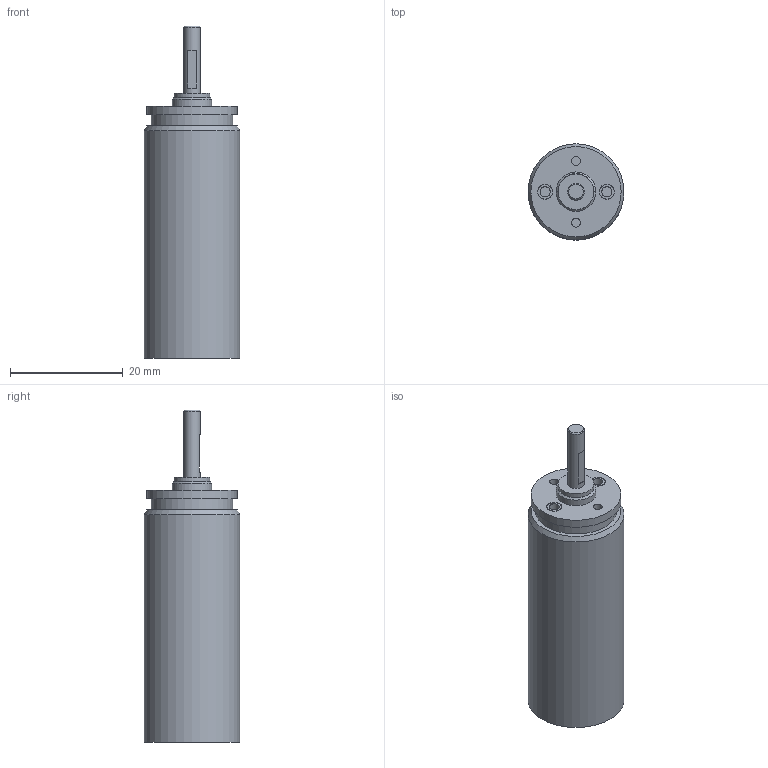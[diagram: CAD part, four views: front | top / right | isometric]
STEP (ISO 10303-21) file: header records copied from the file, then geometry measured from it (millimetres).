
FILE_DESCRIPTION(/* description */ (''),/* implementation_level */ '2;1');
FILE_NAME(/* name */ '16-5_10.stp',/* time_stamp */ '2016-08-25T11:45:32+02:00',/* author */ ('DR. FRITZ FAULHABER GmbH & Co. KG'),/* organization */ ('DR. FRITZ FAULHABER GmbH & Co. KG'),/* preprocessor_version */ 'ST-DEVELOPER v16',/* originating_system */ 'SIEMENS PLM Software NX 10.0',/* authorisation */ '');
FILE_SCHEMA (('AUTOMOTIVE_DESIGN { 1 0 10303 214 3 1 1 1 }'));
Length unit declared in the file: millimetre
Products named in the file (1): H00000539_A
Bounding box: 17 x 17 x 58.8 mm (x, y, z)
Volume: 7434.4 mm3; surface area: 3786.8 mm2
Topology: 1 solids, 1 shells, 41 faces, 65 edges, 43 vertices
Faces by surface type: plane 21, cylinder 17, cone 3
Full cylindrical faces by diameter (mm): 1.6 x2, 1.8 x2, 2.48 x1, 2.584 x2, 2.684 x2, 3 x1, 6 x1, 6.3 x1, 7 x1, 14.5 x1, 16 x2, 17 x1
Entity records: 856 total; most frequent: DIRECTION 166, CARTESIAN_POINT 126, ORIENTED_EDGE 86, AXIS2_PLACEMENT_3D 81, EDGE_LOOP 78, FACE_BOUND 69, EDGE_CURVE 43, ADVANCED_FACE 41
